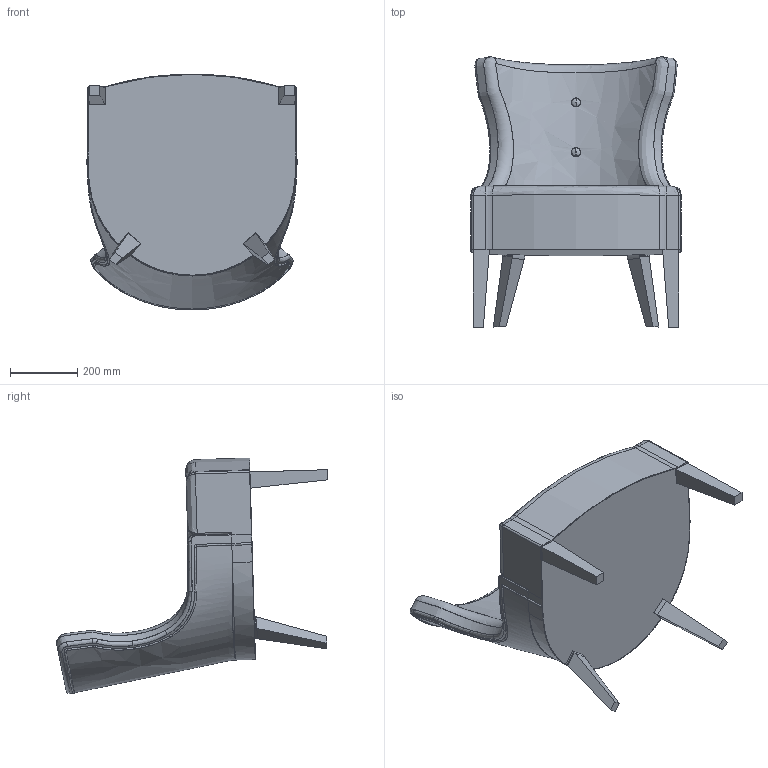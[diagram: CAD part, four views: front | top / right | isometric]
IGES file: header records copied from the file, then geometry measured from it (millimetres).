
Start section: SolidWorks IGES file using analytic representation for surfaces
Global section: file name: C:\Users\Adao\Documents\Trab Adao\Desenho técnico PRODUÇÃO\J M S\HANNA\HANNA (3D)\POLTRONA HANNA M-615.IGS; native system: SolidWorks 2012; preprocessor: SolidWorks 2012; author: Adao; date: 121113.145041; units: millimetre
Bounding box: 623.45 x 802.92 x 699.97 mm (x, y, z)
Surface area: 1884405.9 mm2 (no closed solid volume)
Topology: 0 solids, 0 shells, 195 faces, 3454 edges, 3440 vertices
Faces by surface type: bspline 144, revolution 51
